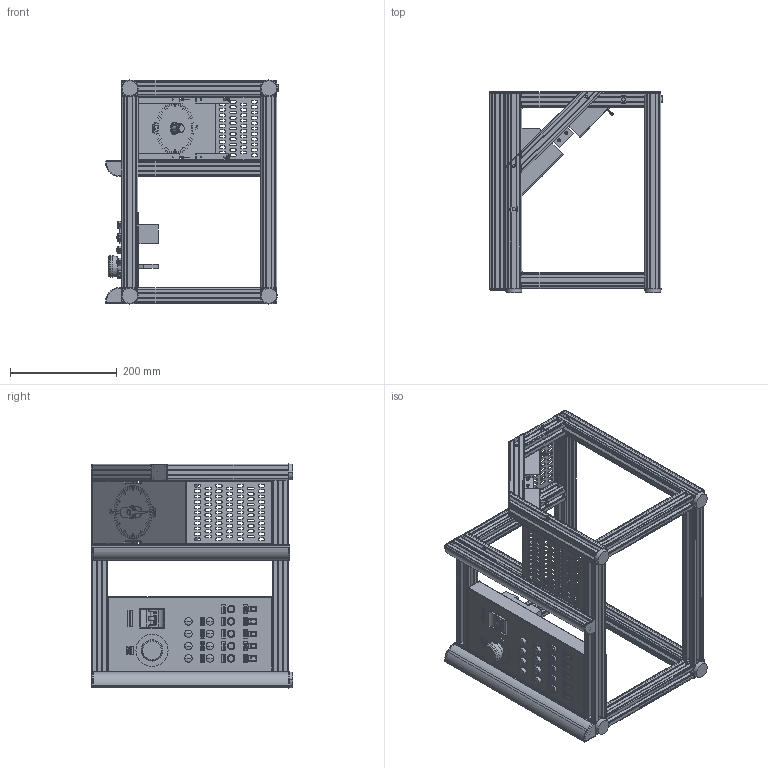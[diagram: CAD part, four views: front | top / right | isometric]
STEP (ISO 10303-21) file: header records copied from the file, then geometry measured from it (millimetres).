
FILE_DESCRIPTION(/* description */ (''),/* implementation_level */ '2;1');
FILE_NAME(/* name */ '运控练习模型.stp',/* time_stamp */ '2022-05-23T08:39:23+08:00',/* author */ (''),/* organization */ (''),/* preprocessor_version */ 'ST-DEVELOPER v18.101',/* originating_system */ 'SIEMENS PLM Software NX 2007',/* authorisation */ '');
FILE_SCHEMA (('AUTOMOTIVE_DESIGN { 1 0 10303 214 3 1 1 1 }'));
Products named in the file (70): 西门子急停按钮底座; CUA32 6SL3040-0PA01-0AA0; DS120-14-1罩板; DS120-14-2补块; 标准型弹性垫圈(装配)8
×2．1[GB／T93-1987]; 平垫圈倒角型A级8×1．6
[GB／T97．2-1985]; 内六角圆柱头螺钉M8×35[GB／T
70．1-2000]; DS120-10-1盖板; DS120-10-2夹片; 5SX52西门子断路器把手1; DS120-1-2轴; X122-5标签; KEY16PowerSwitch标签; GB894．1-86轴用弹性挡圈A型1
6; X132-1标签; DS120-16指针B; X132-9标签; DS120-15指针A; X122-4标签; MK-8-3030-230加工_預設; 按钮LA39-F11黑; 按钮LA39-F11蓝; 内六角圆柱头螺钉M3×12[GB／T
70．1-2000]; MK-8-3030R-365_預設; X132-12标签; 按钮LA39-F11白; X122-1-2标签; X132-10标签; MK-8-3030-208_預設; X132-4标签; MK-8-3030-108加工件_預設; 急停标签; X132-13标签; X132-5标签; X132-2标签; MK-8-3030-214加工件_預設; MK-8-3030-365加工_預設; 按钮LA39-F11红; MK3030R端面盖板; X122-3标签 ...
Assembly tree (120 placements, depth 3):
  S120双轴指针Demo（CU320）_
stp
    CU320-2PN 6SL3040-1MA01-0AA0
    X132-6标签
    MK-EC-B-3030端面盖板  x4
    DS120-1套轴
      DS120-1-2轴
    船型开关  x5
    MK-8-3030-358_預設  x3
    十字槽沉头螺钉M3×6[GB／T
819．1-2000]  x4
    MK-8-3030-365_預設  x2
    平弹内六角M6×25  x8
    GB／T276-94深沟球轴承61901-
2Z
    MK-8-3030-335加工_預設
    指示灯AD16-12A绿  x4
    MK-8-3030-256加工件_預設
    按钮LA39-F11黄
    MK-8-3030-230_預設  x3
    X122-6标签
    GB／T894。1轴用弹性挡圈A
型8
    指示灯AD16-12A红  x4
    5SX52西门子断路器1
      5SX52西门子断路器把手1
    平弹内六角M6×35  x5
    X132-3标签
    橡胶脚垫  x4
    平弹内六角盘头M6×30  x6
    DS120-8操作面板
    X122-3标签
    DS120-10端盖  x2
      DS120-10-2夹片
      DS120-10-1盖板
    MK3030R端面盖板  x4
    按钮LA39-F11红
    MK-8-3030-365加工_預設
    MK-8-3030-214加工件_預設
    X132-2标签
    X132-5标签
    X132-13标签
    急停标签
    MK-8-3030-108加工件_預設
    X132-4标签
    MK-8-3030-208_預設
    X132-10标签
    平弹内六角M8×35
      内六角圆柱头螺钉M8×35[GB／T
70．1-2000]
      平垫圈倒角型A级8×1．6
[GB／T97．2-1985]
      标准型弹性垫圈(装配)8
×2．1[GB／T93-1987]
    X122-1-2标签
    按钮LA39-F11白
    X132-12标签
    MK-8-3030R-365_預設  x2
    内六角圆柱头螺钉M3×12[GB／T
70．1-2000]  x2
    按钮LA39-F11蓝
    DS120-14防护罩
      DS120-14-2补块  x4
      DS120-14-1罩板
    按钮LA39-F11黑
    MK-8-3030-230加工_預設
    X122-4标签
    DS120-15指针A
Bounding box: 322.5 x 376.5 x 419 mm (x, y, z)
Volume: 2105067 mm3; surface area: 1918898.5 mm2
Topology: 100 solids, 100 shells, 6606 faces, 17982 edges, 11806 vertices
Faces by surface type: plane 3806, cylinder 2297, extrusion 229, cone 90, sphere 80, bspline 52, torus 52
Full cylindrical faces by diameter (mm): 15 x1
Entity records: 185798 total; most frequent: CARTESIAN_POINT 48719, ORIENTED_EDGE 28498, DIRECTION 25551, EDGE_CURVE 14249, VERTEX_POINT 9405, VECTOR 9357, LINE 9128, AXIS2_PLACEMENT_3D 8097
